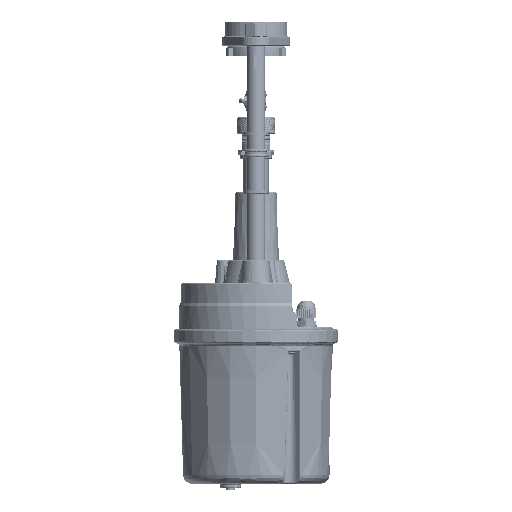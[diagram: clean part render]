
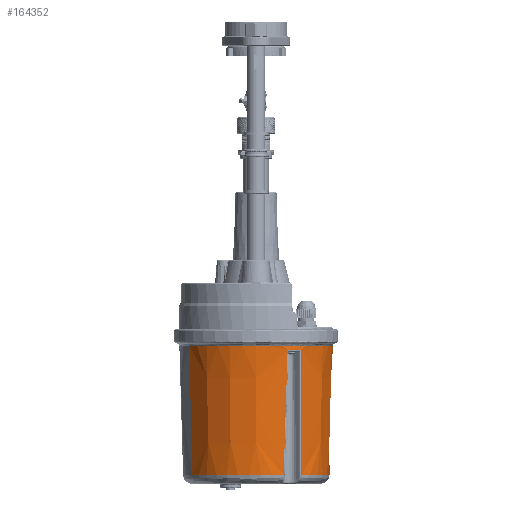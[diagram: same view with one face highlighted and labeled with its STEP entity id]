
A CAD part, left-side view. The second image highlights one B-rep face of the part: STEP entity #164352.
In plain terms, the highlighted conical face has half-angle 1.5 degrees and reference radius 84.325 mm.
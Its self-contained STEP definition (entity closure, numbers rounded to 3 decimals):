
#851 = EDGE_CURVE ( 'NONE', #131454, #126446, #243510, .T. ) ;
#9129 = B_SPLINE_CURVE_WITH_KNOTS ( 'NONE', 3,
 ( #137542, #101223, #64819, #28574 ),
 .UNSPECIFIED., .F., .F.,
 ( 4, 4 ),
 ( 0., 1. ),
 .UNSPECIFIED. ) ;
#12141 = VERTEX_POINT ( 'NONE', #21708 ) ;
#21708 = CARTESIAN_POINT ( 'NONE',  ( 80.619, 159.262, 0. ) ) ;
#22596 = CARTESIAN_POINT ( 'NONE',  ( -8.414, 23.039, 83.764 ) ) ;
#25720 = AXIS2_PLACEMENT_3D ( 'NONE', #249882, #213499, #177098 ) ;
#28574 = CARTESIAN_POINT ( 'NONE',  ( 8.414, 23.039, 83.764 ) ) ;
#30775 = CARTESIAN_POINT ( 'NONE',  ( -8.414, 23.039, 83.764 ) ) ;
#34921 = AXIS2_PLACEMENT_3D ( 'NONE', #42952, #325193, #288875 ) ;
#38558 = VERTEX_POINT ( 'NONE', #291797 ) ;
#42952 = CARTESIAN_POINT ( 'NONE',  ( 0., 159.262, 0. ) ) ;
#43728 = EDGE_CURVE ( 'NONE', #38558, #204190, #193512, .T. ) ;
#56830 = DIRECTION ( 'NONE',  ( 1., 0., 0. ) ) ;
#57874 = AXIS2_PLACEMENT_3D ( 'NONE', #282057, #245759, #209341 ) ;
#61927 = EDGE_CURVE ( 'NONE', #12141, #204190, #348730, .T. ) ;
#64793 = EDGE_CURVE ( 'NONE', #12141, #113753, #81644, .T. ) ;
#64819 = CARTESIAN_POINT ( 'NONE',  ( 9.336, 69.521, 82.448 ) ) ;
#66826 = EDGE_CURVE ( 'NONE', #160108, #117321, #304709, .T. ) ;
#73984 = CARTESIAN_POINT ( 'NONE',  ( 0., 17.732, 0. ) ) ;
#75593 = DIRECTION ( 'NONE',  ( -0.026, -1., 0. ) ) ;
#81644 = CIRCLE ( 'NONE', #25720, 80.619 ) ;
#85255 = VERTEX_POINT ( 'NONE', #22596 ) ;
#93239 = DIRECTION ( 'NONE',  ( 0., -1., 0. ) ) ;
#101223 = CARTESIAN_POINT ( 'NONE',  ( 10.234, 114.929, 81.143 ) ) ;
#101978 = DIRECTION ( 'NONE',  ( 1., 0., 0. ) ) ;
#111891 = CARTESIAN_POINT ( 'NONE',  ( -84.325, 17.732, 0. ) ) ;
#113753 = VERTEX_POINT ( 'NONE', #152778 ) ;
#113835 = EDGE_CURVE ( 'NONE', #85255, #131454, #273927, .T. ) ;
#117321 = VERTEX_POINT ( 'NONE', #328014 ) ;
#117402 = EDGE_CURVE ( 'NONE', #126446, #38558, #148243, .T. ) ;
#122135 = AXIS2_PLACEMENT_3D ( 'NONE', #174657, #138282, #101978 ) ;
#125932 = ORIENTED_EDGE ( 'NONE', *, *, #64793, .T. ) ;
#126446 = VERTEX_POINT ( 'NONE', #177369 ) ;
#131454 = VERTEX_POINT ( 'NONE', #338981 ) ;
#137542 = CARTESIAN_POINT ( 'NONE',  ( 11.105, 159.262, 79.85 ) ) ;
#138282 = DIRECTION ( 'NONE',  ( 0., -1., 0. ) ) ;
#143192 = ORIENTED_EDGE ( 'NONE', *, *, #61927, .F. ) ;
#148243 = LINE ( 'NONE', #111891, #235494 ) ;
#152778 = CARTESIAN_POINT ( 'NONE',  ( 11.105, 159.262, 79.85 ) ) ;
#155704 = AXIS2_PLACEMENT_3D ( 'NONE', #73984, #93239, #56830 ) ;
#156264 = ORIENTED_EDGE ( 'NONE', *, *, #851, .T. ) ;
#160108 = VERTEX_POINT ( 'NONE', #267133 ) ;
#164352 = ADVANCED_FACE ( 'NONE', ( #174060 ), #327285, .T. ) ;
#174060 = FACE_OUTER_BOUND ( 'NONE', #268167, .T. ) ;
#174657 = CARTESIAN_POINT ( 'NONE',  ( 0., 23.039, 0. ) ) ;
#177098 = DIRECTION ( 'NONE',  ( 1., 0., 0. ) ) ;
#177369 = CARTESIAN_POINT ( 'NONE',  ( -80.619, 159.262, 0. ) ) ;
#192557 = ORIENTED_EDGE ( 'NONE', *, *, #66826, .T. ) ;
#193512 = CIRCLE ( 'NONE', #262553, 84.325 ) ;
#197296 = DIRECTION ( 'NONE',  ( 1., 0., 0. ) ) ;
#204190 = VERTEX_POINT ( 'NONE', #256696 ) ;
#209341 = DIRECTION ( 'NONE',  ( 1., 0., 0. ) ) ;
#213499 = DIRECTION ( 'NONE',  ( 0., -1., 0. ) ) ;
#223364 = EDGE_CURVE ( 'NONE', #117321, #85255, #226004, .T. ) ;
#226004 = CIRCLE ( 'NONE', #57874, 84.186 ) ;
#233796 = DIRECTION ( 'NONE',  ( 0., 1., 0. ) ) ;
#235494 = VECTOR ( 'NONE', #75593, 1000. ) ;
#243510 = CIRCLE ( 'NONE', #34921, 80.619 ) ;
#245759 = DIRECTION ( 'NONE',  ( 0., -1., 0. ) ) ;
#247003 = VECTOR ( 'NONE', #275999, 1000. ) ;
#249882 = CARTESIAN_POINT ( 'NONE',  ( 0., 159.262, 0. ) ) ;
#256696 = CARTESIAN_POINT ( 'NONE',  ( 84.325, 17.732, 0. ) ) ;
#262553 = AXIS2_PLACEMENT_3D ( 'NONE', #270030, #233796, #197296 ) ;
#267133 = CARTESIAN_POINT ( 'NONE',  ( 8.414, 23.039, 83.764 ) ) ;
#268167 = EDGE_LOOP ( 'NONE', ( #156264, #353925, #299919, #143192, #125932, #295944, #192557, #286723, #319940 ) ) ;
#270030 = CARTESIAN_POINT ( 'NONE',  ( 0., 17.732, 0. ) ) ;
#273927 = B_SPLINE_CURVE_WITH_KNOTS ( 'NONE', 3,
 ( #30775, #349320, #317777, #281445 ),
 .UNSPECIFIED., .F., .F.,
 ( 4, 4 ),
 ( 0., 1. ),
 .UNSPECIFIED. ) ;
#275999 = DIRECTION ( 'NONE',  ( 0.026, -1., 0. ) ) ;
#281445 = CARTESIAN_POINT ( 'NONE',  ( -11.105, 159.262, 79.85 ) ) ;
#282057 = CARTESIAN_POINT ( 'NONE',  ( 0., 23.039, 0. ) ) ;
#286723 = ORIENTED_EDGE ( 'NONE', *, *, #223364, .T. ) ;
#288875 = DIRECTION ( 'NONE',  ( 1., 0., 0. ) ) ;
#291797 = CARTESIAN_POINT ( 'NONE',  ( -84.325, 17.732, 0. ) ) ;
#295944 = ORIENTED_EDGE ( 'NONE', *, *, #324366, .T. ) ;
#299919 = ORIENTED_EDGE ( 'NONE', *, *, #43728, .T. ) ;
#304709 = CIRCLE ( 'NONE', #122135, 84.186 ) ;
#312337 = CARTESIAN_POINT ( 'NONE',  ( 84.325, 17.732, 0. ) ) ;
#317777 = CARTESIAN_POINT ( 'NONE',  ( -10.234, 114.929, 81.143 ) ) ;
#319940 = ORIENTED_EDGE ( 'NONE', *, *, #113835, .T. ) ;
#324366 = EDGE_CURVE ( 'NONE', #113753, #160108, #9129, .T. ) ;
#325193 = DIRECTION ( 'NONE',  ( 0., -1., 0. ) ) ;
#327285 = CONICAL_SURFACE ( 'NONE', #155704, 84.325, 0.026 ) ;
#328014 = CARTESIAN_POINT ( 'NONE',  ( 0., 23.039, 84.186 ) ) ;
#338981 = CARTESIAN_POINT ( 'NONE',  ( -11.105, 159.262, 79.85 ) ) ;
#348730 = LINE ( 'NONE', #312337, #247003 ) ;
#349320 = CARTESIAN_POINT ( 'NONE',  ( -9.336, 69.521, 82.448 ) ) ;
#353925 = ORIENTED_EDGE ( 'NONE', *, *, #117402, .T. ) ;
